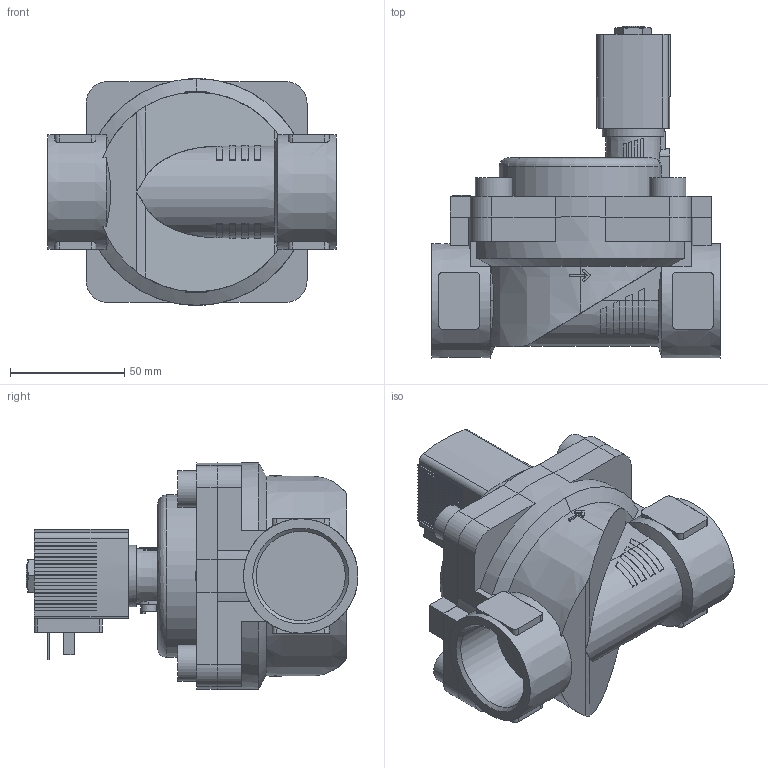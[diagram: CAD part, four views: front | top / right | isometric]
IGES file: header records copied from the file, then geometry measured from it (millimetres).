
Start section: Data from Parasolid IGES Translator 26.0.171, Copyright(c) 2006 Siemens PLM Software. All Rights Reserved.
Global section: file name: 6281-274783-2_2-Way_Solenoid_Valve__Servo-assisted__General_Purpose.igs; native system: By Siemens PLM Incorporated; preprocessor: XPlus GENERIC/IGES 26.0.171; author: Noname; organization: Noname; date: 20240621.174441; units: millimetre
Bounding box: 126 x 145 x 99 mm (x, y, z)
Surface area: 87029.9 mm2 (no closed solid volume)
Topology: 0 solids, 0 shells, 582 faces, 3290 edges, 3283 vertices
Faces by surface type: extrusion 452, revolution 130
